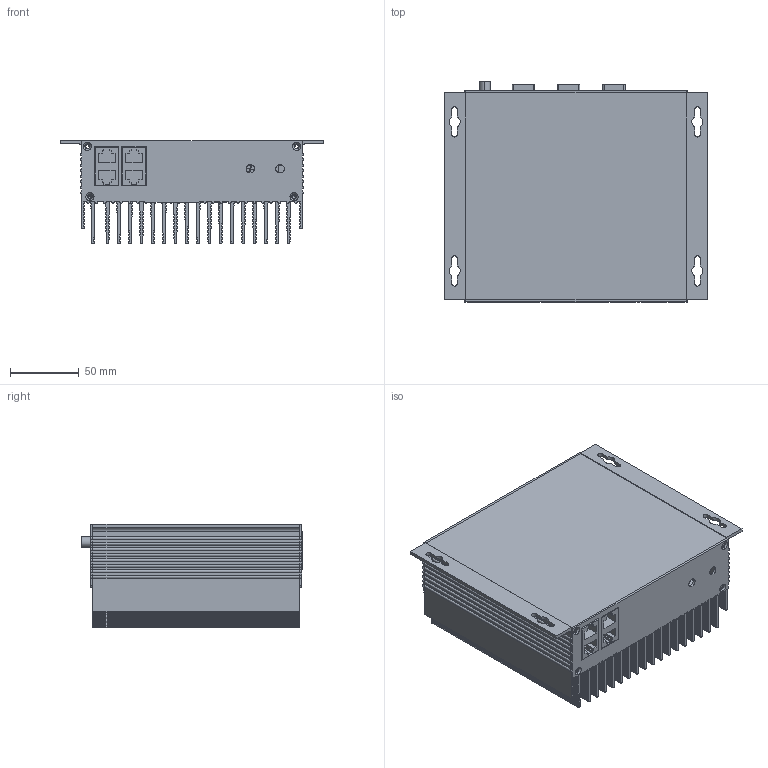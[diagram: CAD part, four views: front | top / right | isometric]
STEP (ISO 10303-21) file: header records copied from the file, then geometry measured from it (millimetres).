
FILE_DESCRIPTION (( 'STEP AP203' ), '1' );
FILE_NAME ('NX-SYS-2016蚾饜极.STEP', '2023-03-23T09:28:48', ( '' ), ( '' ), 'SwSTEP 2.0', 'SolidWorks 2019', '' );
FILE_SCHEMA (( 'CONFIG_CONTROL_DESIGN' ));
Length unit declared in the file: millimetre
Products named in the file (29): y-c6-v1-0_asm.STEP; PB069,190,46前挡板; RESET____.STEP; Y-C6.STEP; P3668_3D_CAD_STEP_Model; HDMI-211______SLDPRT.STEP; SYS-2016 厙諳啣; SIM____.STEP; SYS-2016 厙諳等啣; LED.STEP; USB3.0________.STEP; DC电源插座 内径2.5mm 外径5.6m; __________.STEP; USB Micro B.STEP; SYS-2016 揹諳等啣; RJ45______________.STEP; SYS-2016 USB°å; NX-SYS-2016蚾饜极; 热弯管; 邧USB諳; 5V____________.STEP; 2016奻裔; 2016菁褲; PB069,190,46后挡板(有网口）; Micro TF____.STEP; DB9(譫芛ㄘ; SYS-2016 USB嫖啣; 邧厙諳; SYS-2016 揹諳啣
Assembly tree (33 placements, depth 3):
  NX-SYS-2016蚾饜极
    2016菁褲
    2016奻裔
    PB069,190,46前挡板
    PB069,190,46后挡板(有网口）
    P3668_3D_CAD_STEP_Model
    热弯管  x2
    SYS-2016 USB°å
      SYS-2016 USB嫖啣
      邧USB諳
    SYS-2016 揹諳啣
      SYS-2016 揹諳等啣
      DB9(譫芛ㄘ  x3
    SYS-2016 厙諳啣
      SYS-2016 厙諳等啣
      邧厙諳  x2
    DC电源插座 内径2.5mm 外径5.6m
    y-c6-v1-0_asm.STEP
      Y-C6.STEP
      USB3.0________.STEP
      USB Micro B.STEP
      LED.STEP
      HDMI-211______SLDPRT.STEP
      RESET____.STEP  x2
      RJ45______________.STEP
      Micro TF____.STEP
      SIM____.STEP
      5V____________.STEP
      __________.STEP
Bounding box: 190.3 x 159.6 x 75.3 mm (x, y, z)
Volume: 536670.2 mm3; surface area: 489723.3 mm2
Topology: 435 solids, 435 shells, 7399 faces, 19474 edges, 12921 vertices
Faces by surface type: plane 6320, cylinder 989, cone 76, sphere 10, bspline 4
Entity records: 220832 total; most frequent: CARTESIAN_POINT 40825, ORIENTED_EDGE 37532, DIRECTION 34251, EDGE_CURVE 18766, LINE 16301, VECTOR 16301, VERTEX_POINT 12479, AXIS2_PLACEMENT_3D 8975
